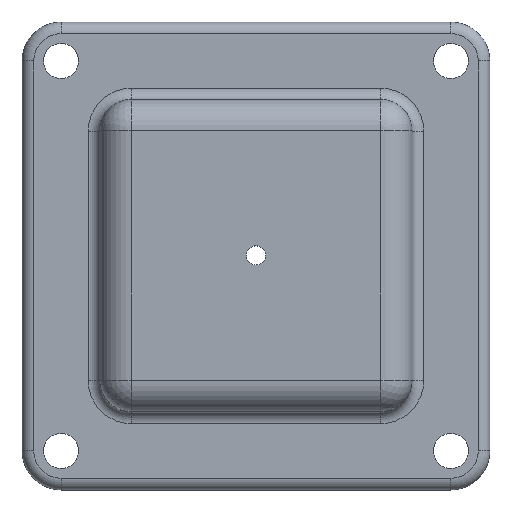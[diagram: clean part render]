
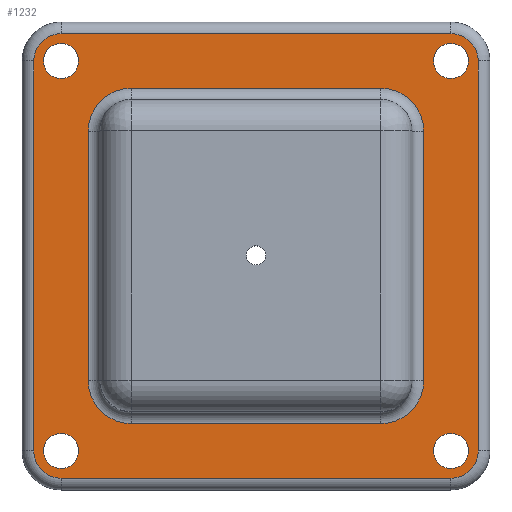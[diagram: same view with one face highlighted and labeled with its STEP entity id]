
A CAD part, top view. The second image highlights one B-rep face of the part: STEP entity #1232.
In plain terms, the highlighted planar face has unit normal (0, 0, 1).
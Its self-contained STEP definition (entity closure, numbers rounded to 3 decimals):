
#49=FACE_BOUND('',#258,.T.);
#50=FACE_BOUND('',#259,.T.);
#51=FACE_BOUND('',#260,.T.);
#52=FACE_BOUND('',#261,.T.);
#53=FACE_BOUND('',#262,.T.);
#83=PLANE('',#1381);
#152=FACE_OUTER_BOUND('',#257,.T.);
#257=EDGE_LOOP('',(#964,#965,#966,#967,#968,#969,#970,#971));
#258=EDGE_LOOP('',(#972,#973,#974,#975,#976,#977,#978,#979));
#259=EDGE_LOOP('',(#980));
#260=EDGE_LOOP('',(#981));
#261=EDGE_LOOP('',(#982));
#262=EDGE_LOOP('',(#983));
#338=LINE('',#2053,#402);
#340=LINE('',#2065,#404);
#342=LINE('',#2077,#406);
#343=LINE('',#2085,#407);
#352=LINE('',#2110,#416);
#353=LINE('',#2114,#417);
#354=LINE('',#2118,#418);
#355=LINE('',#2121,#419);
#402=VECTOR('',#1655,100.);
#404=VECTOR('',#1669,100.);
#406=VECTOR('',#1683,100.);
#407=VECTOR('',#1694,100.);
#416=VECTOR('',#1719,64.);
#417=VECTOR('',#1722,64.);
#418=VECTOR('',#1725,64.);
#419=VECTOR('',#1728,64.);
#488=CIRCLE('',#1353,7.);
#494=CIRCLE('',#1361,7.);
#498=CIRCLE('',#1367,7.);
#502=CIRCLE('',#1373,7.);
#505=CIRCLE('',#1382,11.);
#506=CIRCLE('',#1383,11.);
#507=CIRCLE('',#1384,11.);
#508=CIRCLE('',#1385,11.);
#509=CIRCLE('',#1386,4.5);
#510=CIRCLE('',#1387,4.5);
#511=CIRCLE('',#1388,4.5);
#512=CIRCLE('',#1389,4.5);
#590=VERTEX_POINT('',#2041);
#591=VERTEX_POINT('',#2043);
#593=VERTEX_POINT('',#2049);
#595=VERTEX_POINT('',#2055);
#597=VERTEX_POINT('',#2061);
#599=VERTEX_POINT('',#2067);
#601=VERTEX_POINT('',#2073);
#603=VERTEX_POINT('',#2079);
#610=VERTEX_POINT('',#2106);
#611=VERTEX_POINT('',#2107);
#612=VERTEX_POINT('',#2109);
#613=VERTEX_POINT('',#2111);
#614=VERTEX_POINT('',#2113);
#615=VERTEX_POINT('',#2115);
#616=VERTEX_POINT('',#2117);
#617=VERTEX_POINT('',#2119);
#618=VERTEX_POINT('',#2122);
#619=VERTEX_POINT('',#2124);
#620=VERTEX_POINT('',#2126);
#621=VERTEX_POINT('',#2128);
#712=EDGE_CURVE('',#590,#591,#488,.T.);
#717=EDGE_CURVE('',#591,#593,#338,.T.);
#720=EDGE_CURVE('',#593,#595,#494,.T.);
#723=EDGE_CURVE('',#595,#597,#340,.T.);
#726=EDGE_CURVE('',#597,#599,#498,.T.);
#729=EDGE_CURVE('',#599,#601,#342,.T.);
#732=EDGE_CURVE('',#601,#603,#502,.T.);
#733=EDGE_CURVE('',#603,#590,#343,.T.);
#744=EDGE_CURVE('',#610,#611,#505,.T.);
#745=EDGE_CURVE('',#612,#610,#352,.T.);
#746=EDGE_CURVE('',#613,#612,#506,.T.);
#747=EDGE_CURVE('',#614,#613,#353,.T.);
#748=EDGE_CURVE('',#615,#614,#507,.T.);
#749=EDGE_CURVE('',#616,#615,#354,.T.);
#750=EDGE_CURVE('',#617,#616,#508,.T.);
#751=EDGE_CURVE('',#611,#617,#355,.T.);
#752=EDGE_CURVE('',#618,#618,#509,.T.);
#753=EDGE_CURVE('',#619,#619,#510,.T.);
#754=EDGE_CURVE('',#620,#620,#511,.T.);
#755=EDGE_CURVE('',#621,#621,#512,.T.);
#964=ORIENTED_EDGE('',*,*,#712,.F.);
#965=ORIENTED_EDGE('',*,*,#733,.F.);
#966=ORIENTED_EDGE('',*,*,#732,.F.);
#967=ORIENTED_EDGE('',*,*,#729,.F.);
#968=ORIENTED_EDGE('',*,*,#726,.F.);
#969=ORIENTED_EDGE('',*,*,#723,.F.);
#970=ORIENTED_EDGE('',*,*,#720,.F.);
#971=ORIENTED_EDGE('',*,*,#717,.F.);
#972=ORIENTED_EDGE('',*,*,#744,.F.);
#973=ORIENTED_EDGE('',*,*,#745,.F.);
#974=ORIENTED_EDGE('',*,*,#746,.F.);
#975=ORIENTED_EDGE('',*,*,#747,.F.);
#976=ORIENTED_EDGE('',*,*,#748,.F.);
#977=ORIENTED_EDGE('',*,*,#749,.F.);
#978=ORIENTED_EDGE('',*,*,#750,.F.);
#979=ORIENTED_EDGE('',*,*,#751,.F.);
#980=ORIENTED_EDGE('',*,*,#752,.T.);
#981=ORIENTED_EDGE('',*,*,#753,.T.);
#982=ORIENTED_EDGE('',*,*,#754,.T.);
#983=ORIENTED_EDGE('',*,*,#755,.T.);
#1232=ADVANCED_FACE('',(#152,#49,#50,#51,#52,#53),#83,.T.);
#1353=AXIS2_PLACEMENT_3D('',#2044,#1644,#1645);
#1361=AXIS2_PLACEMENT_3D('',#2059,#1662,#1663);
#1367=AXIS2_PLACEMENT_3D('',#2071,#1676,#1677);
#1373=AXIS2_PLACEMENT_3D('',#2083,#1690,#1691);
#1381=AXIS2_PLACEMENT_3D('',#2105,#1715,#1716);
#1382=AXIS2_PLACEMENT_3D('',#2108,#1717,#1718);
#1383=AXIS2_PLACEMENT_3D('',#2112,#1720,#1721);
#1384=AXIS2_PLACEMENT_3D('',#2116,#1723,#1724);
#1385=AXIS2_PLACEMENT_3D('',#2120,#1726,#1727);
#1386=AXIS2_PLACEMENT_3D('',#2123,#1729,#1730);
#1387=AXIS2_PLACEMENT_3D('',#2125,#1731,#1732);
#1388=AXIS2_PLACEMENT_3D('',#2127,#1733,#1734);
#1389=AXIS2_PLACEMENT_3D('',#2129,#1735,#1736);
#1644=DIRECTION('center_axis',(0.,0.,-1.));
#1645=DIRECTION('ref_axis',(0.707,0.707,0.));
#1655=DIRECTION('',(0.,-1.,0.));
#1662=DIRECTION('center_axis',(0.,0.,-1.));
#1663=DIRECTION('ref_axis',(0.707,-0.707,0.));
#1669=DIRECTION('',(-1.,0.,0.));
#1676=DIRECTION('center_axis',(0.,0.,-1.));
#1677=DIRECTION('ref_axis',(-0.707,-0.707,0.));
#1683=DIRECTION('',(0.,1.,0.));
#1690=DIRECTION('center_axis',(0.,0.,-1.));
#1691=DIRECTION('ref_axis',(-0.707,0.707,0.));
#1694=DIRECTION('',(1.,0.,0.));
#1715=DIRECTION('center_axis',(0.,0.,1.));
#1716=DIRECTION('ref_axis',(1.,0.,0.));
#1717=DIRECTION('center_axis',(0.,0.,1.));
#1718=DIRECTION('ref_axis',(0.707,-0.707,0.));
#1719=DIRECTION('',(1.,0.,0.));
#1720=DIRECTION('center_axis',(0.,0.,1.));
#1721=DIRECTION('ref_axis',(-0.707,-0.707,0.));
#1722=DIRECTION('',(0.,-1.,0.));
#1723=DIRECTION('center_axis',(0.,0.,1.));
#1724=DIRECTION('ref_axis',(-0.707,0.707,0.));
#1725=DIRECTION('',(-1.,0.,0.));
#1726=DIRECTION('center_axis',(0.,0.,1.));
#1727=DIRECTION('ref_axis',(0.707,0.707,0.));
#1728=DIRECTION('',(0.,1.,0.));
#1729=DIRECTION('center_axis',(0.,0.,-1.));
#1730=DIRECTION('ref_axis',(-1.,0.,0.));
#1731=DIRECTION('center_axis',(0.,0.,-1.));
#1732=DIRECTION('ref_axis',(1.,0.,0.));
#1733=DIRECTION('center_axis',(0.,0.,-1.));
#1734=DIRECTION('ref_axis',(-1.,0.,0.));
#1735=DIRECTION('center_axis',(0.,0.,-1.));
#1736=DIRECTION('ref_axis',(1.,0.,0.));
#2041=CARTESIAN_POINT('',(50.,57.,10.));
#2043=CARTESIAN_POINT('',(57.,50.,10.));
#2044=CARTESIAN_POINT('Origin',(50.,50.,10.));
#2049=CARTESIAN_POINT('',(57.,-50.,10.));
#2053=CARTESIAN_POINT('',(57.,-30.,10.));
#2055=CARTESIAN_POINT('',(50.,-57.,10.));
#2059=CARTESIAN_POINT('Origin',(50.,-50.,10.));
#2061=CARTESIAN_POINT('',(-50.,-57.,10.));
#2065=CARTESIAN_POINT('',(-30.,-57.,10.));
#2067=CARTESIAN_POINT('',(-57.,-50.,10.));
#2071=CARTESIAN_POINT('Origin',(-50.,-50.,10.));
#2073=CARTESIAN_POINT('',(-57.,50.,10.));
#2077=CARTESIAN_POINT('',(-57.,30.,10.));
#2079=CARTESIAN_POINT('',(-50.,57.,10.));
#2083=CARTESIAN_POINT('Origin',(-50.,50.,10.));
#2085=CARTESIAN_POINT('',(30.,57.,10.));
#2105=CARTESIAN_POINT('Origin',(0.,0.,10.));
#2106=CARTESIAN_POINT('',(32.,-43.,10.));
#2107=CARTESIAN_POINT('',(43.,-32.,10.));
#2108=CARTESIAN_POINT('Origin',(32.,-32.,10.));
#2109=CARTESIAN_POINT('',(-32.,-43.,10.));
#2110=CARTESIAN_POINT('',(-20.,-43.,10.));
#2111=CARTESIAN_POINT('',(-43.,-32.,10.));
#2112=CARTESIAN_POINT('Origin',(-32.,-32.,10.));
#2113=CARTESIAN_POINT('',(-43.,32.,10.));
#2114=CARTESIAN_POINT('',(-43.,20.,10.));
#2115=CARTESIAN_POINT('',(-32.,43.,10.));
#2116=CARTESIAN_POINT('Origin',(-32.,32.,10.));
#2117=CARTESIAN_POINT('',(32.,43.,10.));
#2118=CARTESIAN_POINT('',(20.,43.,10.));
#2119=CARTESIAN_POINT('',(43.,32.,10.));
#2120=CARTESIAN_POINT('Origin',(32.,32.,10.));
#2121=CARTESIAN_POINT('',(43.,-20.,10.));
#2122=CARTESIAN_POINT('',(45.5,-50.,10.));
#2123=CARTESIAN_POINT('Origin',(50.,-50.,10.));
#2124=CARTESIAN_POINT('',(-45.5,-50.,10.));
#2125=CARTESIAN_POINT('Origin',(-50.,-50.,10.));
#2126=CARTESIAN_POINT('',(45.5,50.,10.));
#2127=CARTESIAN_POINT('Origin',(50.,50.,10.));
#2128=CARTESIAN_POINT('',(-45.5,50.,10.));
#2129=CARTESIAN_POINT('Origin',(-50.,50.,10.));
